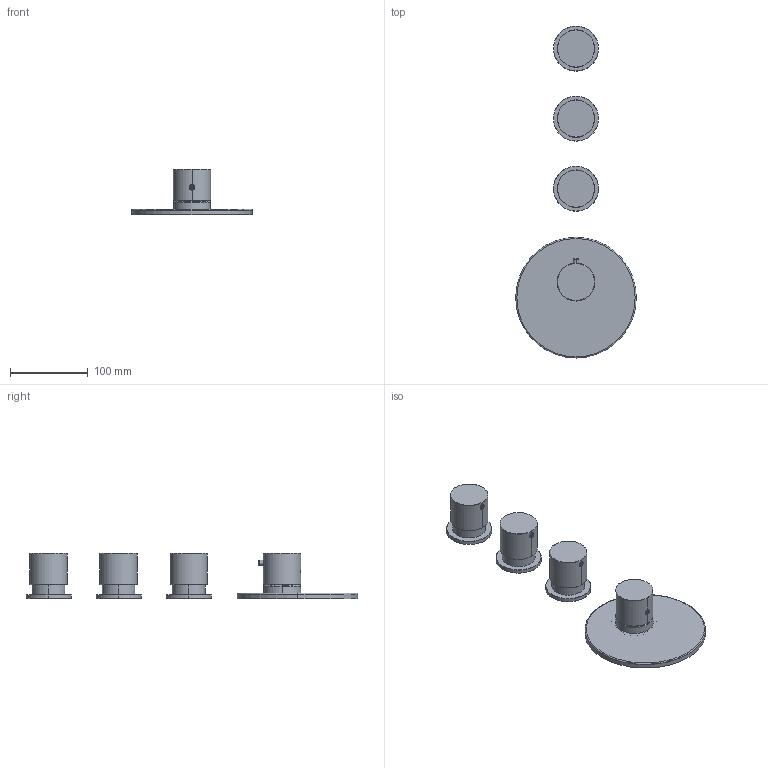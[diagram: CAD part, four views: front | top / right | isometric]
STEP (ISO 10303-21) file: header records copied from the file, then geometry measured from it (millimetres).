
FILE_DESCRIPTION((''),'2;1');
FILE_NAME('F3083X3INOX_FILE_3D','2019-07-25T',('ivanv'),(''),'CREO PARAMETRIC BY PTC INC, 2016260','CREO PARAMETRIC BY PTC INC, 2016260','');
FILE_SCHEMA(('CONFIG_CONTROL_DESIGN'));
Length unit declared in the file: millimetre
Products named in the file (1): F3083X3INOX_FILE_3D
Bounding box: 155 x 426.5 x 58 mm (x, y, z)
Volume: 190288.5 mm3; surface area: 153972.8 mm2
Topology: 10 solids, 13 shells, 482 faces, 1215 edges, 744 vertices
Faces by surface type: cylinder 182, cone 132, plane 130, torus 30, sphere 8
Entity records: 16468 total; most frequent: CARTESIAN_POINT 4644, DIRECTION 2599, ORIENTED_EDGE 2406, EDGE_CURVE 1203, AXIS2_PLACEMENT_3D 1062, VERTEX_POINT 744, CIRCLE 580, EDGE_LOOP 549
